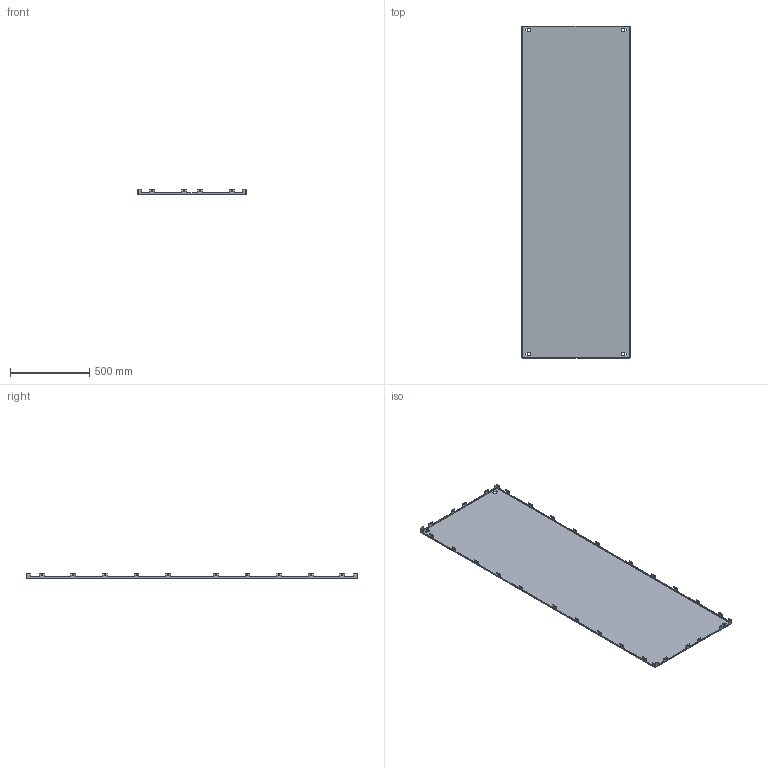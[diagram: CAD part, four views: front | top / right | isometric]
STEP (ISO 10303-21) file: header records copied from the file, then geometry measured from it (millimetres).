
FILE_DESCRIPTION (( 'STEP AP203' ), '1' );
FILE_NAME ('R5LPS2208.STEP', '2021-12-17T12:58:18', ( '' ), ( '' ), 'SwSTEP 2.0', 'SolidWorks 2020', '' );
FILE_SCHEMA (( 'CONFIG_CONTROL_DESIGN' ));
Length unit declared in the file: millimetre
Products named in the file (1): R5LPS2208
Bounding box: 684 x 2098 x 32.5 mm (x, y, z)
Volume: 2989776.8 mm3; surface area: 3006174.1 mm2
Topology: 1 solids, 1 shells, 484 faces, 1414 edges, 932 vertices
Faces by surface type: plane 306, cylinder 178
Entity records: 16203 total; most frequent: CARTESIAN_POINT 2831, ORIENTED_EDGE 2828, DIRECTION 2740, EDGE_CURVE 1414, VECTOR 1058, LINE 1058, VERTEX_POINT 932, AXIS2_PLACEMENT_3D 841
